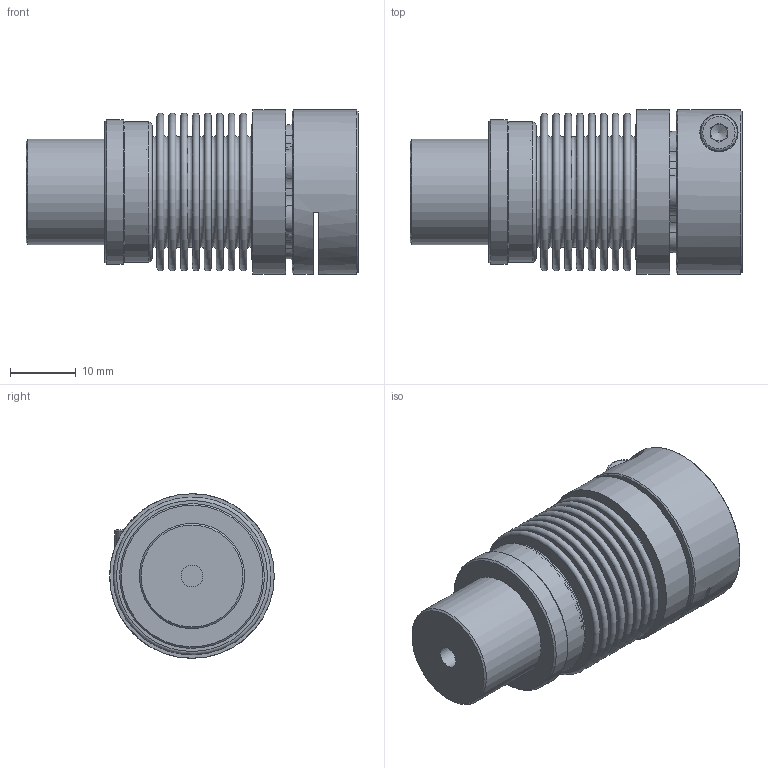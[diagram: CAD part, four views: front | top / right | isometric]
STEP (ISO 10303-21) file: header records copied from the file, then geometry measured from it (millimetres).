
FILE_DESCRIPTION( ( 'KBE1/14 - N7H8 - N14H7 - 98 Sh' ), '1' );
FILE_NAME( 'K:/Konstruktion/Fertigungszeichnungen/Metallbalgkupplung/KB3P/20/KB3P-20-39.stp', '14.12.2015', ( 'KBK-Antriebstechnik' ), ( 'KBK-Antriebstechnik' ), 'PSStep 16.0.42', 'Solid Edge St6', ' ' );
FILE_SCHEMA( ( 'AUTOMOTIVE_DESIGN { 1 0 10303 214 1 1 1 1 }' ) );
Length unit declared in the file: millimetre
Products named in the file (7): Assem1; Stecknabe KB2P-20; Balgaufnahme KB2P-20 für Step; Socket Head Cap Screw_DIN_DIN 912 M3 x 10 --- 10N_0; SN20; ISO EN DIN 4762 M4x16; BM20_Standard_0
Assembly tree (6 placements, depth 2):
  Assem1
    Stecknabe KB2P-20
    Balgaufnahme KB2P-20 für Step
    Socket Head Cap Screw_DIN_DIN 912 M3 x 10 --- 10N_0
    SN20
    ISO EN DIN 4762 M4x16
    BM20_Standard_0
Bounding box: 50.45 x 25 x 25 mm (x, y, z)
Volume: 13048.1 mm3; surface area: 16799.1 mm2
Topology: 6 solids, 6 shells, 214 faces, 445 edges, 287 vertices
Faces by surface type: plane 83, cone 66, torus 43, cylinder 22
Full cylindrical faces by diameter (mm): 2.459 x1, 3 x2, 3.2 x1, 3.3 x1, 3.5 x1, 4 x2, 5.5 x1, 7 x1, 16 x1, 21 x3, 21.3 x2, 22 x1, 25 x2
Entity records: 7380 total; most frequent: CARTESIAN_POINT 1042, DIRECTION 1038, ORIENTED_EDGE 728, AXIS2_PLACEMENT_3D 466, EDGE_CURVE 364, EDGE_LOOP 343, VERTEX_POINT 294, FACE_OUTER_BOUND 276
